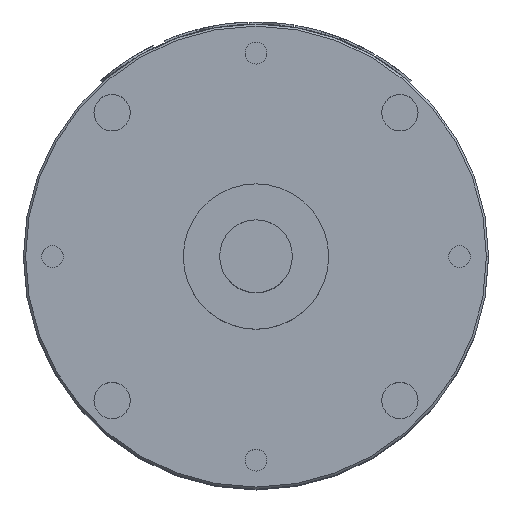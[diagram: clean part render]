
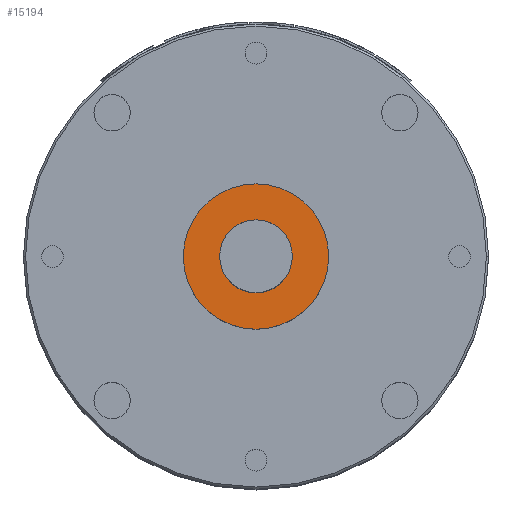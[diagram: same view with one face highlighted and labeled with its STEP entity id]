
A CAD part, top view. The second image highlights one B-rep face of the part: STEP entity #15194.
In plain terms, the highlighted planar face has unit normal (0, 0, 1).
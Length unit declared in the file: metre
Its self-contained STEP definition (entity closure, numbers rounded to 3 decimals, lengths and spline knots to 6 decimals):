
#400 = ORIENTED_EDGE ( 'NONE', *, *, #13642, .T. ) ;
#482 = CARTESIAN_POINT ( 'NONE',  ( 0., -0.005, 0.0055 ) ) ;
#920 = AXIS2_PLACEMENT_3D ( 'NONE', #8121, #8176, #8223 ) ;
#1227 = FACE_OUTER_BOUND ( 'NONE', #6030, .T. ) ;
#2419 = ORIENTED_EDGE ( 'NONE', *, *, #18085, .T. ) ;
#2590 = CARTESIAN_POINT ( 'NONE',  ( 0., 0., 0.0055 ) ) ;
#2637 = CIRCLE ( 'NONE', #12896, 0.005 ) ;
#2760 = ORIENTED_EDGE ( 'NONE', *, *, #5183, .T. ) ;
#2930 = CIRCLE ( 'NONE', #920, 0.005 ) ;
#3210 = ORIENTED_EDGE ( 'NONE', *, *, #11531, .T. ) ;
#4072 = DIRECTION ( 'NONE',  ( -1., 0., 0. ) ) ;
#5089 = CARTESIAN_POINT ( 'NONE',  ( 0., 0., 0.0055 ) ) ;
#5183 = EDGE_CURVE ( 'NONE', #16358, #14215, #2637, .T. ) ;
#5672 = CIRCLE ( 'NONE', #17369, 0.01 ) ;
#6030 = EDGE_LOOP ( 'NONE', ( #400, #2419 ) ) ;
#6166 = PLANE ( 'NONE',  #12516 ) ;
#6228 = DIRECTION ( 'NONE',  ( 1., 0., 0. ) ) ;
#6645 = DIRECTION ( 'NONE',  ( -1., 0., 0. ) ) ;
#7127 = AXIS2_PLACEMENT_3D ( 'NONE', #2590, #13114, #4072 ) ;
#8121 = CARTESIAN_POINT ( 'NONE',  ( 0., 0., 0.0055 ) ) ;
#8176 = DIRECTION ( 'NONE',  ( 0., 0., -1. ) ) ;
#8223 = DIRECTION ( 'NONE',  ( 0., -1., 0. ) ) ;
#8368 = CARTESIAN_POINT ( 'NONE',  ( 0., 0., 0.0055 ) ) ;
#8429 = DIRECTION ( 'NONE',  ( 0., 0., -1. ) ) ;
#8559 = DIRECTION ( 'NONE',  ( 0., -1., 0. ) ) ;
#10279 = CARTESIAN_POINT ( 'NONE',  ( 0., 0.005, 0.0055 ) ) ;
#10518 = CARTESIAN_POINT ( 'NONE',  ( -0.01, 0., 0.0055 ) ) ;
#11028 = VERTEX_POINT ( 'NONE', #10518 ) ;
#11268 = VERTEX_POINT ( 'NONE', #14792 ) ;
#11531 = EDGE_CURVE ( 'NONE', #14215, #16358, #2930, .T. ) ;
#12233 = CARTESIAN_POINT ( 'NONE',  ( -0.01012, -0.01012, 0.0055 ) ) ;
#12516 = AXIS2_PLACEMENT_3D ( 'NONE', #12233, #15065, #6228 ) ;
#12896 = AXIS2_PLACEMENT_3D ( 'NONE', #8368, #8429, #8559 ) ;
#13114 = DIRECTION ( 'NONE',  ( 0., 0., 1. ) ) ;
#13642 = EDGE_CURVE ( 'NONE', #11028, #11268, #5672, .T. ) ;
#14215 = VERTEX_POINT ( 'NONE', #482 ) ;
#14792 = CARTESIAN_POINT ( 'NONE',  ( 0.01, 0., 0.0055 ) ) ;
#15065 = DIRECTION ( 'NONE',  ( 0., 0., 1. ) ) ;
#15194 = ADVANCED_FACE ( 'NONE', ( #15549, #1227 ), #6166, .T. ) ;
#15441 = DIRECTION ( 'NONE',  ( 0., 0., 1. ) ) ;
#15549 = FACE_BOUND ( 'NONE', #16325, .T. ) ;
#16325 = EDGE_LOOP ( 'NONE', ( #3210, #2760 ) ) ;
#16358 = VERTEX_POINT ( 'NONE', #10279 ) ;
#16779 = CIRCLE ( 'NONE', #7127, 0.01 ) ;
#17369 = AXIS2_PLACEMENT_3D ( 'NONE', #5089, #15441, #6645 ) ;
#18085 = EDGE_CURVE ( 'NONE', #11268, #11028, #16779, .T. ) ;
